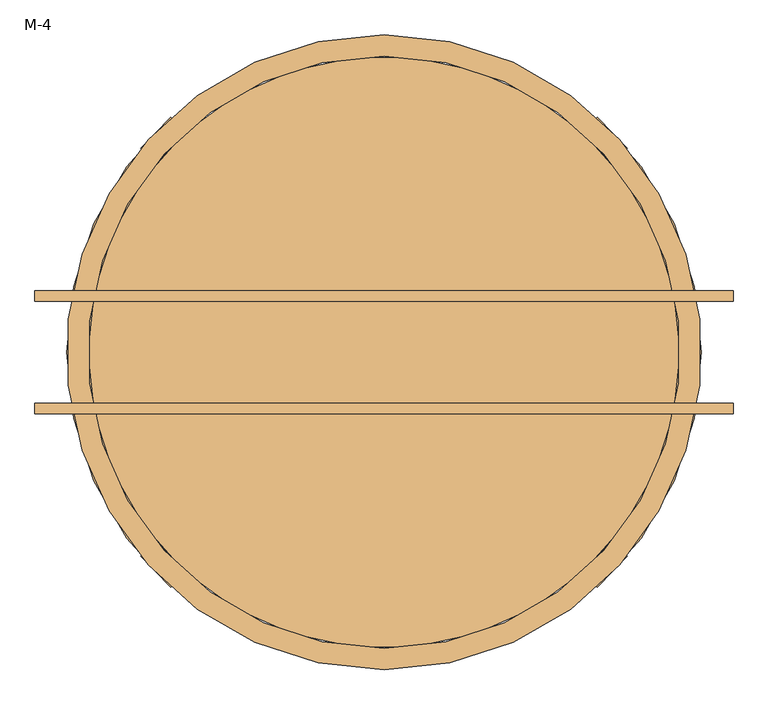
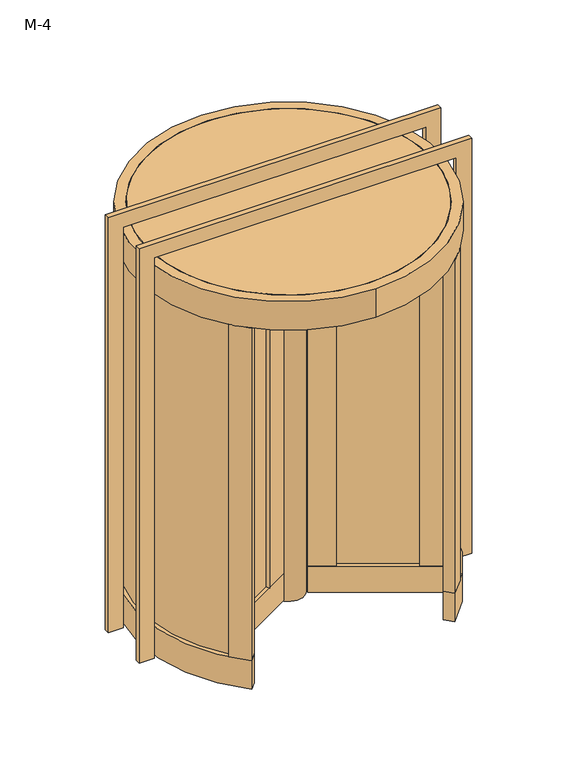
"""IFC4 building model written with IfcOpenShell, lengths in millimetres: door geometry, 旋转门 3 : M-4."""

from ifc_helpers import new_model, si_unit, point, frame, frame_2d, origin, origin_with_axes, origin_2d, place, context, project, spatial, polyline, circle_curve, trimmed, segment, composite_curve, outline, extrude, source, transform, mapped, element, save


def m_4_30aa87ab(model_context):
    return source(origin(), model_context, "Body", "SweptSolid", [
        extrude(outline(polyline([(2100.0, -750.0), (2100.0, 750.0), (0.0, 750.0), (0.0, 825.0), (2175.0, 825.0), (2175.0, -825.0), (0.0, -825.0), (0.0, -750.0), (2100.0, -750.0)])), frame((0.0, -145.0, 0.0), z_axis=(0.0, 1.0, 0.0), x_axis=(0.0, 0.0, 1.0)), (0.0, 0.0, 1.0), 25.0),
        extrude(outline(polyline([(2100.0, -750.0), (2100.0, 750.0), (0.0, 750.0), (0.0, 825.0), (2175.0, 825.0), (2175.0, -825.0), (0.0, -825.0), (0.0, -750.0), (2100.0, -750.0)])), frame((0.0, 120.0, 0.0), z_axis=(0.0, 1.0, 0.0), x_axis=(0.0, 0.0, 1.0)), (0.0, 0.0, 1.0), 25.0),
        extrude(outline(composite_curve([segment(trimmed(circle_curve(origin_2d(), 750.0000021), [point((0.0, -750.0000021))], [point((0.0, 750.0000021))], False, "CARTESIAN"), True, "CONTINUOUS"), segment(trimmed(circle_curve(origin_2d(), 750.0000021), [point((0.0, 750.0000021))], [point((0.0, -750.0000021))], False, "CARTESIAN"), True, "CONTINUOUS")], self_intersect=False), holes=[composite_curve([segment(trimmed(circle_curve(origin_2d(), 699.2000021), [point((0.0, 699.2000021))], [point((0.0, -699.2000021))], True, "CARTESIAN"), True, "CONTINUOUS"), segment(trimmed(circle_curve(origin_2d(), 699.2000021), [point((0.0, -699.2000021))], [point((0.0, 699.2000021))], True, "CARTESIAN"), True, "CONTINUOUS")], self_intersect=False)]), frame((0.0, 0.0, 1893.2), z_axis=(0.0, 0.0, 1.0), x_axis=(1.0, 0.0, 0.0)), (0.0, 0.0, 1.0), 150.0),
        extrude(outline(polyline([(174.0798334, -107.8673079), (180.4298334, -96.8687853), (492.1199869, -276.8231793), (485.7699869, -287.821702), (174.0798334, -107.8673079)])), frame((0.0, 0.0, 150.0), z_axis=(0.0, 0.0, 1.0), x_axis=(1.0, 0.0, 0.0)), (0.0, 0.0, 1.0), 1743.2),
        extrude(outline(polyline([(-6.3759122, 204.691212), (-6.3759122, 564.6), (6.3240878, 564.6), (6.3240878, 204.691212), (-6.3759122, 204.691212)])), frame((0.0, 0.0, 150.0), z_axis=(0.0, 0.0, 1.0), x_axis=(1.0, 0.0, 0.0)), (0.0, 0.0, 1.0), 1743.2),
        extrude(outline(polyline([(-174.0798334, -107.8673079), (-485.7699869, -287.821702), (-492.1199869, -276.8231793), (-180.4298334, -96.8687853), (-174.0798334, -107.8673079)])), frame((0.0, 0.0, 150.0), z_axis=(0.0, 0.0, 1.0), x_axis=(1.0, 0.0, 0.0)), (0.0, 0.0, 1.0), 1743.2),
        extrude(outline(polyline([(476.457943, -303.9506351), (501.457943, -260.6493649), (605.3809914, -320.6493649), (580.3809914, -363.9506351), (476.457943, -303.9506351)])), frame((0.0, 0.0, 150.0), z_axis=(0.0, 0.0, 1.0), x_axis=(1.0, 0.0, 0.0)), (0.0, 0.0, 1.0), 1743.2),
        extrude(outline(polyline([(58.7955281, -62.2855931), (83.7543721, -19.0556072), (189.9563281, -80.3713351), (164.9974841, -123.601321), (58.7955281, -62.2855931)])), frame((0.0, 0.0, 150.0), z_axis=(0.0, 0.0, 1.0), x_axis=(1.0, 0.0, 0.0)), (0.0, 0.0, 1.0), 1743.2),
        extrude(outline(polyline([(25.0, 564.6), (-25.0, 564.6), (-25.0, 684.6), (25.0, 684.6), (25.0, 564.6)])), frame((0.0, 0.0, 150.0), z_axis=(0.0, 0.0, 1.0), x_axis=(1.0, 0.0, 0.0)), (0.0, 0.0, 1.0), 1743.2),
        extrude(outline(polyline([(24.5431418, 82.0612175), (-25.3745461, 82.0612175), (-25.3745461, 204.6926733), (24.5431418, 204.6926733), (24.5431418, 82.0612175)])), frame((0.0, 0.0, 150.0), z_axis=(0.0, 0.0, 1.0), x_axis=(1.0, 0.0, 0.0)), (0.0, 0.0, 1.0), 1743.2),
        extrude(outline(polyline([(-476.457943, -303.9506351), (-580.3809914, -363.9506351), (-605.3809914, -320.6493649), (-501.457943, -260.6493649), (-476.457943, -303.9506351)])), frame((0.0, 0.0, 150.0), z_axis=(0.0, 0.0, 1.0), x_axis=(1.0, 0.0, 0.0)), (0.0, 0.0, 1.0), 1743.2),
        extrude(outline(polyline([(-58.7955281, -62.2855931), (-164.9974841, -123.601321), (-189.9563281, -80.3713351), (-83.7543721, -19.0556072), (-58.7955281, -62.2855931)])), frame((0.0, 0.0, 150.0), z_axis=(0.0, 0.0, 1.0), x_axis=(1.0, 0.0, 0.0)), (0.0, 0.0, 1.0), 1743.2),
        extrude(outline(polyline([(58.56693, -62.6811463), (83.56693, -19.3798761), (605.3809914, -320.6493649), (580.3809914, -363.9506351), (58.56693, -62.6811463)])), frame((0.0, 0.0, 1893.2), z_axis=(0.0, 0.0, 1.0), x_axis=(1.0, 0.0, 0.0)), (0.0, 0.0, 1.0), 86.5),
        extrude(outline(polyline([(-25.0, 82.0610223), (-25.0, 684.6), (25.0, 684.6), (25.0, 82.0610223), (-25.0, 82.0610223)])), frame((0.0, 0.0, 1893.2), z_axis=(0.0, 0.0, 1.0), x_axis=(1.0, 0.0, 0.0)), (0.0, 0.0, 1.0), 86.5),
        extrude(outline(polyline([(-58.56693, -62.6811463), (-580.3809914, -363.9506351), (-605.3809914, -320.6493649), (-83.56693, -19.3798761), (-58.56693, -62.6811463)])), frame((0.0, 0.0, 1893.2), z_axis=(0.0, 0.0, 1.0), x_axis=(1.0, 0.0, 0.0)), (0.0, 0.0, 1.0), 86.5),
        extrude(outline(polyline([(58.56693, -62.6811463), (83.56693, -19.3798761), (605.3809914, -320.6493649), (580.3809914, -363.9506351), (58.56693, -62.6811463)])), frame((0.0, 0.0, 12.7), z_axis=(0.0, 0.0, 1.0), x_axis=(1.0, 0.0, 0.0)), (0.0, 0.0, 1.0), 137.3),
        extrude(outline(polyline([(-25.0, 82.0610223), (-25.0, 684.6), (25.0, 684.6), (25.0, 82.0610223), (-25.0, 82.0610223)])), frame((0.0, 0.0, 12.7), z_axis=(0.0, 0.0, 1.0), x_axis=(1.0, 0.0, 0.0)), (0.0, 0.0, 1.0), 137.3),
        extrude(outline(polyline([(-58.56693, -62.6811463), (-580.3809914, -363.9506351), (-605.3809914, -320.6493649), (-83.56693, -19.3798761), (-58.56693, -62.6811463)])), frame((0.0, 0.0, 12.7), z_axis=(0.0, 0.0, 1.0), x_axis=(1.0, 0.0, 0.0)), (0.0, 0.0, 1.0), 137.3),
        extrude(outline(composite_curve([segment(trimmed(circle_curve(origin_2d(), 76.3647379), [point((-76.3647379, 0.0))], [point((76.3647379, 0.0))], False, "CARTESIAN"), True, "CONTINUOUS"), segment(trimmed(circle_curve(origin_2d(), 76.3647379), [point((76.3647379, 0.0))], [point((-76.3647379, 0.0))], False, "CARTESIAN"), True, "CONTINUOUS")], self_intersect=False), holes=[composite_curve([segment(trimmed(circle_curve(origin_2d(), 65.1966682), [point((-65.1966682, 0.0))], [point((65.1966682, 0.0))], True, "CARTESIAN"), True, "CONTINUOUS"), segment(trimmed(circle_curve(origin_2d(), 65.1966682), [point((65.1966682, 0.0))], [point((-65.1966682, 0.0))], True, "CARTESIAN"), True, "CONTINUOUS")], self_intersect=False)]), origin_with_axes(), (0.0, 0.0, 1.0), 1992.4),
        extrude(outline(composite_curve([segment(polyline([(-469.8062471, -517.8443107), (-503.9453438, -555.4629514)]), True, "CONTINUOUS"), segment(trimmed(circle_curve(origin_2d(), 750.0), [point((-503.9453438, -555.4629514))], [point((-574.5333323, -482.0907073))], False, "CARTESIAN"), True, "CONTINUOUS"), segment(polyline([(-574.5333323, -482.0907073), (-535.6182746, -449.4370967)]), True, "CONTINUOUS"), segment(trimmed(circle_curve(origin_2d(), 699.2), [point((-535.6182746, -449.4370967))], [point((-469.8062471, -517.8443107))], True, "CARTESIAN"), True, "CONTINUOUS")], self_intersect=False)), frame((0.0, 0.0, 150.0), z_axis=(0.0, 0.0, 1.0), x_axis=(1.0, 0.0, 0.0)), (0.0, 0.0, 1.0), 1743.2),
        extrude(outline(composite_curve([segment(trimmed(circle_curve(frame_2d((0.0791205, -0.0760709)), 699.2), [point((470.0333237, -517.7861122))], [point((535.8608415, -449.3183078))], True, "CARTESIAN"), True, "CONTINUOUS"), segment(polyline([(535.8608415, -449.3183078), (574.7035161, -481.8878174)]), True, "CONTINUOUS"), segment(trimmed(circle_curve(origin_2d(), 750.0), [point((574.7035161, -481.8878174))], [point((504.09883, -555.323662))], False, "CARTESIAN"), True, "CONTINUOUS"), segment(polyline([(504.09883, -555.323662), (470.0333237, -517.7861122)]), True, "CONTINUOUS")], self_intersect=False)), frame((0.0, 0.0, 150.0), z_axis=(0.0, 0.0, 1.0), x_axis=(1.0, 0.0, 0.0)), (0.0, 0.0, 1.0), 1743.2),
        extrude(outline(composite_curve([segment(polyline([(470.0333263, 517.7861151), (504.09883, 555.323662)]), True, "CONTINUOUS"), segment(trimmed(circle_curve(origin_2d(), 750.0), [point((504.09883, 555.323662))], [point((574.5333323, 482.0907073))], False, "CARTESIAN"), True, "CONTINUOUS"), segment(polyline([(574.5333323, 482.0907073), (535.7021627, 449.5074872)]), True, "CONTINUOUS"), segment(trimmed(circle_curve(frame_2d((0.0791073, 0.0760881)), 699.2), [point((535.7021627, 449.5074872))], [point((470.0333263, 517.7861151))], True, "CARTESIAN"), True, "CONTINUOUS")], self_intersect=False)), frame((0.0, 0.0, 150.0), z_axis=(0.0, 0.0, 1.0), x_axis=(1.0, 0.0, 0.0)), (0.0, 0.0, 1.0), 1743.2),
        extrude(outline(composite_curve([segment(trimmed(circle_curve(origin_2d(), 699.2), [point((-469.8062471, 517.8443107))], [point((-535.7769313, 449.2479492))], True, "CARTESIAN"), True, "CONTINUOUS"), segment(polyline([(-535.7769313, 449.2479492), (-574.7035161, 481.8878174)]), True, "CONTINUOUS"), segment(trimmed(circle_curve(origin_2d(), 750.0), [point((-574.7035161, 481.8878174))], [point((-503.9453438, 555.4629514))], False, "CARTESIAN"), True, "CONTINUOUS"), segment(polyline([(-503.9453438, 555.4629514), (-469.8062471, 517.8443107)]), True, "CONTINUOUS")], self_intersect=False)), frame((0.0, 0.0, 150.0), z_axis=(0.0, 0.0, 1.0), x_axis=(1.0, 0.0, 0.0)), (0.0, 0.0, 1.0), 1743.2),
        extrude(outline(composite_curve([segment(trimmed(circle_curve(origin_2d(), 699.3647675), [point((-699.3647675, 0.0))], [point((699.3647675, 0.0))], False, "CARTESIAN"), True, "CONTINUOUS"), segment(trimmed(circle_curve(origin_2d(), 699.3647675), [point((699.3647675, 0.0))], [point((-699.3647675, 0.0))], False, "CARTESIAN"), True, "CONTINUOUS")], self_intersect=False)), frame((0.0, 0.0, 1992.4), z_axis=(0.0, 0.0, 1.0), x_axis=(1.0, 0.0, 0.0)), (0.0, 0.0, 1.0), 50.8),
        extrude(outline(composite_curve([segment(trimmed(circle_curve(origin_2d(), 718.6), [point((550.6425956, -461.7127808))], [point((550.4795368, 461.9071763))], True, "CARTESIAN"), True, "CONTINUOUS"), segment(polyline([(550.4795368, 461.9071763), (559.6720701, 469.6206276)]), True, "CONTINUOUS"), segment(trimmed(circle_curve(origin_2d(), 730.6), [point((559.6720701, 469.6206276))], [point((559.8378518, -469.4229859))], False, "CARTESIAN"), True, "CONTINUOUS"), segment(polyline([(559.8378518, -469.4229859), (550.6425956, -461.7127808)]), True, "CONTINUOUS")], self_intersect=False)), frame((0.0, 0.0, 150.0), z_axis=(0.0, 0.0, 1.0), x_axis=(1.0, 0.0, 0.0)), (0.0, 0.0, 1.0), 1743.2),
        extrude(outline(composite_curve([segment(trimmed(circle_curve(origin_2d(), 730.6), [point((-559.6720701, -469.6206276))], [point((-559.8378518, 469.4229859))], False, "CARTESIAN"), True, "CONTINUOUS"), segment(polyline([(-559.8378518, 469.4229859), (-550.6425956, 461.7127808)]), True, "CONTINUOUS"), segment(trimmed(circle_curve(origin_2d(), 718.6), [point((-550.6425956, 461.7127808))], [point((-550.4795368, -461.9071763))], True, "CARTESIAN"), True, "CONTINUOUS"), segment(polyline([(-550.4795368, -461.9071763), (-559.6720701, -469.6206276)]), True, "CONTINUOUS")], self_intersect=False)), frame((0.0, 0.0, 150.0), z_axis=(0.0, 0.0, 1.0), x_axis=(1.0, 0.0, 0.0)), (0.0, 0.0, 1.0), 1743.2),
        extrude(outline(composite_curve([segment(trimmed(circle_curve(origin_2d(), 699.2), [point((469.9570435, -517.707463))], [point((469.9570435, 517.707463))], True, "CARTESIAN"), True, "CONTINUOUS"), segment(polyline([(469.9570435, 517.707463), (504.1015198, 555.3212203)]), True, "CONTINUOUS"), segment(trimmed(circle_curve(origin_2d(), 750.0), [point((504.1015198, 555.3212203))], [point((504.1015198, -555.3212203))], False, "CARTESIAN"), True, "CONTINUOUS"), segment(polyline([(504.1015198, -555.3212203), (469.9570435, -517.707463)]), True, "CONTINUOUS")], self_intersect=False)), origin_with_axes(), (0.0, 0.0, 1.0), 150.0),
        extrude(outline(composite_curve([segment(trimmed(circle_curve(origin_2d(), 750.0), [point((-503.9426533, -555.4653924))], [point((-503.9426533, 555.4653924))], False, "CARTESIAN"), True, "CONTINUOUS"), segment(polyline([(-503.9426533, 555.4653924), (-469.8089376, 517.8418698)]), True, "CONTINUOUS"), segment(trimmed(circle_curve(origin_2d(), 699.2), [point((-469.8089376, 517.8418698))], [point((-469.8089376, -517.8418698))], True, "CARTESIAN"), True, "CONTINUOUS"), segment(polyline([(-469.8089376, -517.8418698), (-503.9426533, -555.4653924)]), True, "CONTINUOUS")], self_intersect=False)), origin_with_axes(), (0.0, 0.0, 1.0), 150.0),
    ])


if __name__ == "__main__":
    model = new_model("IFC4")
    model_context = context("Model", 3, world=origin())
    ifc_project = project(units=[si_unit("LENGTHUNIT", "METRE", prefix="MILLI")], contexts=[model_context])
    site = spatial("IfcSite", under=ifc_project)
    building = spatial("IfcBuilding", under=site)
    placement = place(None, origin())
    m_4_shape = m_4_30aa87ab(model_context)
    element("IfcDoor", 1, ObjectType="旋转门 3 : M-4", at=placement, inside=building, context=model_context, shape_type="MappedRepresentation", body=[
        mapped(m_4_shape, transform((0.0, 0.0, 0.0), x_axis=(1.0, 0.0, 0.0), y_axis=(0.0, 1.0, 0.0), z_axis=(0.0, 0.0, 1.0))),
    ])
    save(model, "model.ifc")
